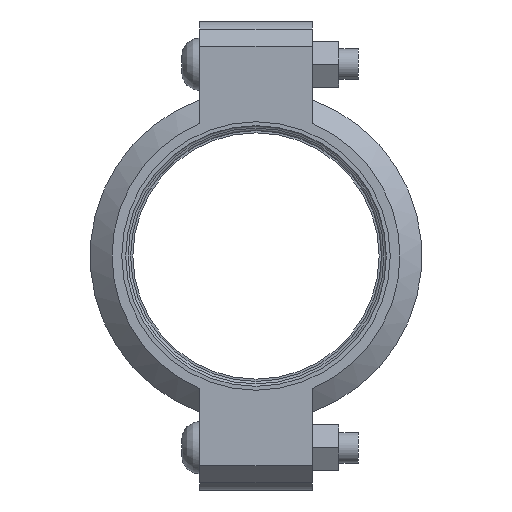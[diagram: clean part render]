
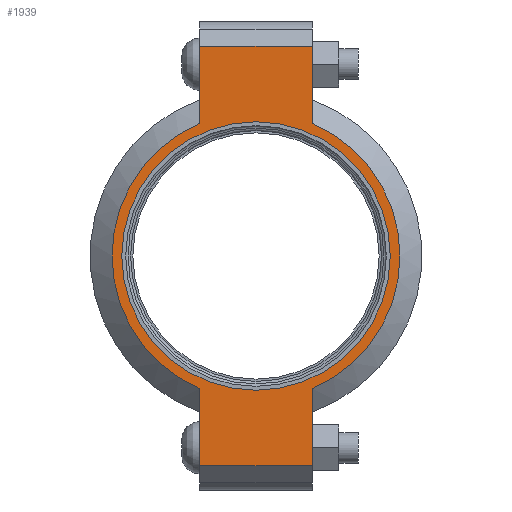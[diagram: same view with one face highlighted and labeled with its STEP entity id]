
A CAD part, left-side view. The second image highlights one B-rep face of the part: STEP entity #1939.
In plain terms, the highlighted planar face has unit normal (-1, 0, 0) as drawn and (0, 0, 1) by its records, which use the part's own axes.
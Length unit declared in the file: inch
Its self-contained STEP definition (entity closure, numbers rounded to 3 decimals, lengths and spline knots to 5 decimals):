
#128=LINE('',#3437,#225);
#136=LINE('',#3473,#233);
#143=LINE('',#3494,#240);
#152=LINE('',#3526,#249);
#153=LINE('',#3530,#250);
#154=LINE('',#3532,#251);
#225=VECTOR('',#2805,0.3937);
#233=VECTOR('',#2821,0.3937);
#240=VECTOR('',#2840,0.3937);
#249=VECTOR('',#2865,0.3937);
#250=VECTOR('',#2870,0.3937);
#251=VECTOR('',#2871,0.3937);
#307=FACE_BOUND('',#557,.T.);
#351=PLANE('',#2278);
#439=FACE_OUTER_BOUND('',#556,.T.);
#556=EDGE_LOOP('',(#1660,#1661,#1662,#1663,#1664,#1665,#1666,#1667));
#557=EDGE_LOOP('',(#1668));
#729=CIRCLE('',#2279,2.95);
#730=CIRCLE('',#2280,2.95);
#731=CIRCLE('',#2281,2.75);
#893=VERTEX_POINT('',#3434);
#894=VERTEX_POINT('',#3436);
#905=VERTEX_POINT('',#3468);
#906=VERTEX_POINT('',#3472);
#913=VERTEX_POINT('',#3491);
#914=VERTEX_POINT('',#3493);
#924=VERTEX_POINT('',#3529);
#925=VERTEX_POINT('',#3531);
#926=VERTEX_POINT('',#3534);
#1138=EDGE_CURVE('',#894,#893,#128,.T.);
#1152=EDGE_CURVE('',#906,#905,#136,.T.);
#1162=EDGE_CURVE('',#914,#913,#143,.T.);
#1177=EDGE_CURVE('',#906,#893,#152,.T.);
#1178=EDGE_CURVE('',#905,#914,#729,.T.);
#1179=EDGE_CURVE('',#924,#913,#153,.T.);
#1180=EDGE_CURVE('',#924,#925,#154,.T.);
#1181=EDGE_CURVE('',#925,#894,#730,.T.);
#1182=EDGE_CURVE('',#926,#926,#731,.T.);
#1660=ORIENTED_EDGE('',*,*,#1177,.F.);
#1661=ORIENTED_EDGE('',*,*,#1152,.T.);
#1662=ORIENTED_EDGE('',*,*,#1178,.T.);
#1663=ORIENTED_EDGE('',*,*,#1162,.T.);
#1664=ORIENTED_EDGE('',*,*,#1179,.F.);
#1665=ORIENTED_EDGE('',*,*,#1180,.T.);
#1666=ORIENTED_EDGE('',*,*,#1181,.T.);
#1667=ORIENTED_EDGE('',*,*,#1138,.T.);
#1668=ORIENTED_EDGE('',*,*,#1182,.T.);
#1939=ADVANCED_FACE('',(#439,#307),#351,.T.);
#2278=AXIS2_PLACEMENT_3D('',#3527,#2866,#2867);
#2279=AXIS2_PLACEMENT_3D('',#3528,#2868,#2869);
#2280=AXIS2_PLACEMENT_3D('',#3533,#2872,#2873);
#2281=AXIS2_PLACEMENT_3D('',#3535,#2874,#2875);
#2805=DIRECTION('',(1.,0.,0.));
#2821=DIRECTION('',(-1.,0.,0.));
#2840=DIRECTION('',(-1.,0.,0.));
#2865=DIRECTION('',(0.,-1.,0.));
#2866=DIRECTION('center_axis',(0.,0.,1.));
#2867=DIRECTION('ref_axis',(-1.,0.,0.));
#2868=DIRECTION('center_axis',(0.,0.,1.));
#2869=DIRECTION('ref_axis',(1.,0.,0.));
#2870=DIRECTION('',(0.,1.,0.));
#2871=DIRECTION('',(1.,0.,0.));
#2872=DIRECTION('center_axis',(0.,0.,1.));
#2873=DIRECTION('ref_axis',(1.,0.,0.));
#2874=DIRECTION('center_axis',(0.,0.,-1.));
#2875=DIRECTION('ref_axis',(1.,0.,0.));
#3434=CARTESIAN_POINT('',(4.295,-1.15,1.065));
#3436=CARTESIAN_POINT('',(2.71662,-1.15,1.065));
#3437=CARTESIAN_POINT('',(4.795,-1.15,1.065));
#3468=CARTESIAN_POINT('',(2.71662,1.15,1.065));
#3472=CARTESIAN_POINT('',(4.295,1.15,1.065));
#3473=CARTESIAN_POINT('',(-4.795,1.15,1.065));
#3491=CARTESIAN_POINT('',(-4.295,1.15,1.065));
#3493=CARTESIAN_POINT('',(-2.71662,1.15,1.065));
#3494=CARTESIAN_POINT('',(-4.795,1.15,1.065));
#3526=CARTESIAN_POINT('',(4.295,-0.575,1.065));
#3527=CARTESIAN_POINT('Origin',(0.,0.,
1.065));
#3528=CARTESIAN_POINT('Origin',(0.,0.,1.065));
#3529=CARTESIAN_POINT('',(-4.295,-1.15,1.065));
#3530=CARTESIAN_POINT('',(-4.295,0.575,1.065));
#3531=CARTESIAN_POINT('',(-2.71662,-1.15,1.065));
#3532=CARTESIAN_POINT('',(4.795,-1.15,1.065));
#3533=CARTESIAN_POINT('Origin',(0.,0.,1.065));
#3534=CARTESIAN_POINT('',(-2.75,0.,1.065));
#3535=CARTESIAN_POINT('Origin',(0.,0.,1.065));
